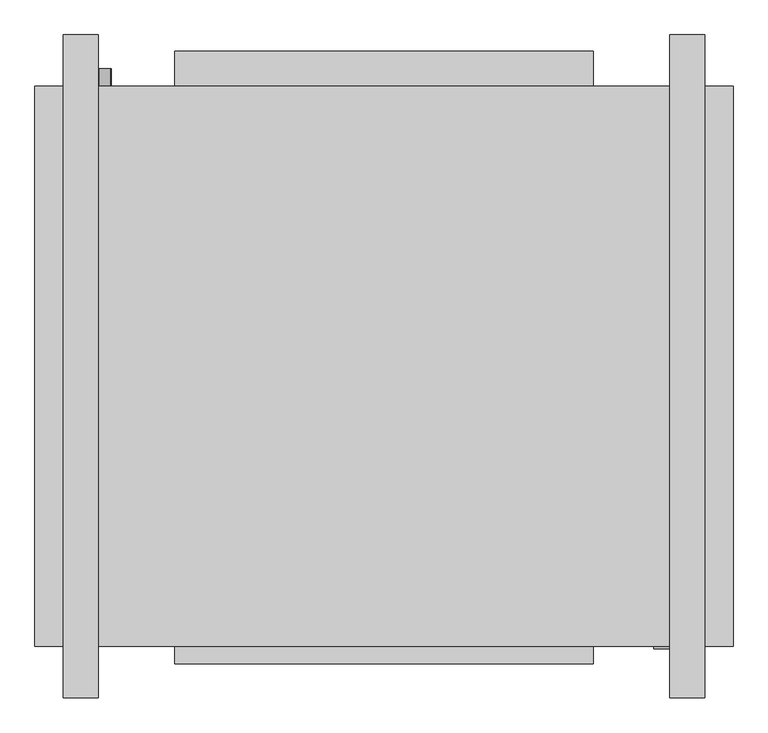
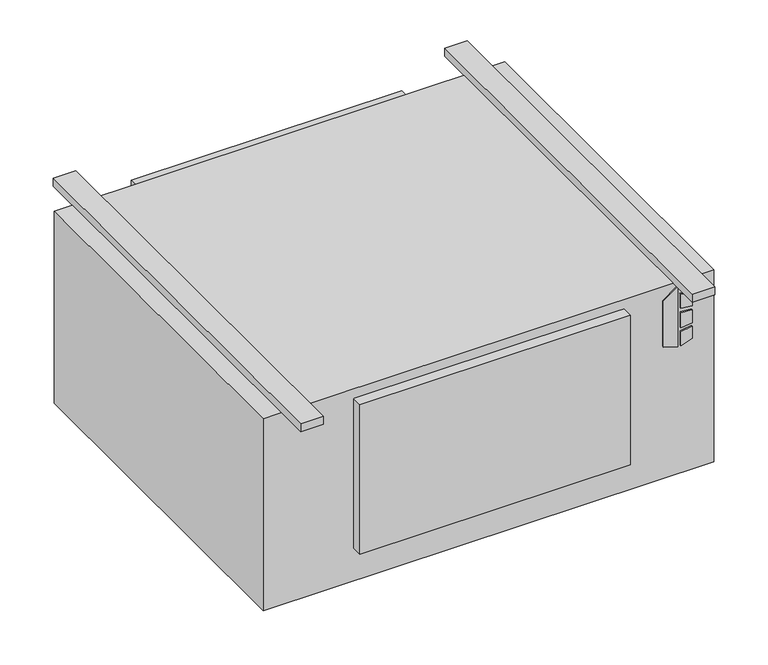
"""IFC4 building model written with IfcOpenShell, lengths in millimetres: proxy geometry, Concealed_High_Capacity_Horizontal_Cabinet_Fan_Coil_Unit_-_HXY_-_IEC_-_4-Pipe_LH_2022 : Size 10 - 277v/60Hz/1Ph - 6/2 Coil."""

import ifcopenshell
import ifcopenshell.guid

model = None  # the IFC model being written
_history = None  # IfcOwnerHistory: only IFC2X3 demands one
_inside = {}  # id of a spatial element -> (the spatial element, [elements in it])
_under = {}  # id of a project, library or spatial element -> (it, [spatial elements below it])
_declared = {}  # id of a project -> (the project, [libraries it declares])
_typed = {}  # id of a type object -> (the type object, [elements of that type])
_made_of = {}  # id of a material, layer set ... -> (it, [elements and type objects made of it])


def new_model(schema):
    """Start an empty IFC model of exactly this schema.

    Asked for "IFC4X3", IfcOpenShell would pick the latest addendum, in which some entities
    have other attributes; the version numbers below select the first issue.
    IFC2X3 requires an IfcOwnerHistory on every rooted entity: one is made here for all.
    """
    global model, _history
    if schema == "IFC4X3":
        model = ifcopenshell.file(schema_version=(4, 3, 0, 0))
    else:
        model = ifcopenshell.file(schema=schema)
    _inside.clear()
    _under.clear()
    _declared.clear()
    _typed.clear()
    _made_of.clear()
    _history = None
    if model.schema == "IFC2X3":
        org = make("IfcOrganization", Name="unknown")
        user = make(
            "IfcPersonAndOrganization",
            ThePerson=make("IfcPerson", FamilyName="unknown"),
            TheOrganization=org,
        )
        app = make(
            "IfcApplication",
            ApplicationDeveloper=org,
            Version="unknown",
            ApplicationFullName="unknown",
            ApplicationIdentifier="unknown",
        )
        _history = make(
            "IfcOwnerHistory",
            OwningUser=user,
            OwningApplication=app,
            ChangeAction="ADDED",
            CreationDate=0,
        )
    return model


def make(cls, **values):
    """One entity of the class cls with the attributes given. An attribute that is None is left unset."""
    return model.create_entity(
        cls, **{name: value for name, value in values.items() if value is not None}
    )


def rooted(cls, **values):
    """An entity with a GlobalId (a new one), such as an element, a storey or a relation."""
    return make(cls, GlobalId=ifcopenshell.guid.new(), OwnerHistory=_history, **values)


def si_unit(unit_type, name, prefix=None):
    """IfcSIUnit, for example si_unit("LENGTHUNIT", "METRE", prefix="MILLI")."""
    return make("IfcSIUnit", UnitType=unit_type, Prefix=prefix, Name=name)


def assignment(units):
    """IfcUnitAssignment: the units of a project."""
    return None if units is None else make("IfcUnitAssignment", Units=units)


def point(xyz):
    """IfcCartesianPoint."""
    return None if xyz is None else make("IfcCartesianPoint", Coordinates=xyz)


def direction(xyz):
    """IfcDirection."""
    return None if xyz is None else make("IfcDirection", DirectionRatios=xyz)


def frame(location, z_axis=None, x_axis=None):
    """IfcAxis2Placement3D, a coordinate frame: its origin and axes. An axis left out is left unset."""
    return make(
        "IfcAxis2Placement3D",
        Location=point(location),
        Axis=direction(z_axis),
        RefDirection=direction(x_axis),
    )


def frame_2d(location, x_axis=None):
    """IfcAxis2Placement2D, a coordinate frame in the plane: its origin and x axis."""
    return make(
        "IfcAxis2Placement2D", Location=point(location), RefDirection=direction(x_axis)
    )


def origin():
    """The frame at (0, 0, 0) with its axes left unset."""
    return frame((0.0, 0.0, 0.0))


def origin_with_axes():
    """The frame at (0, 0, 0) with the z axis (0, 0, 1) and the x axis (1, 0, 0) written out."""
    return frame((0.0, 0.0, 0.0), z_axis=(0.0, 0.0, 1.0), x_axis=(1.0, 0.0, 0.0))


def place(relative_to, where):
    """IfcLocalPlacement: puts the frame where relative to a parent placement (None: the world)."""
    return make(
        "IfcLocalPlacement", PlacementRelTo=relative_to, RelativePlacement=where
    )


def context(
    kind, dimensions, precision=None, world=None, true_north=None, identifier=None
):
    """IfcGeometricRepresentationContext, for example the 3D "Model" context."""
    return make(
        "IfcGeometricRepresentationContext",
        ContextIdentifier=identifier,
        ContextType=kind,
        CoordinateSpaceDimension=dimensions,
        Precision=precision,
        WorldCoordinateSystem=world,
        TrueNorth=true_north,
    )


def project(units=None, contexts=None):
    """IfcProject with its units and contexts."""
    return rooted(
        "IfcProject",
        Name="project",
        RepresentationContexts=contexts,
        UnitsInContext=assignment(units),
    )


def spatial(cls, under=None, at=None, **own):
    """A site, building, storey or space (cls), placed at a placement, below another one or the project."""
    s = rooted(cls, ObjectPlacement=at, **own)
    if under is not None:
        _under.setdefault(under.id(), (under, []))[1].append(s)
    return s


def polyline(points):
    """IfcPolyline through the points."""
    return make("IfcPolyline", Points=[point(p) for p in points])


def circle_curve(where, radius):
    """IfcCircle in the frame where."""
    return make("IfcCircle", Position=where, Radius=radius)


def trimmed(basis, trim1, trim2, sense, master):
    """IfcTrimmedCurve: the piece of a basis curve between two trims."""
    return make(
        "IfcTrimmedCurve",
        BasisCurve=basis,
        Trim1=trim1,
        Trim2=trim2,
        SenseAgreement=sense,
        MasterRepresentation=master,
    )


def segment(curve, same_sense, transition):
    """IfcCompositeCurveSegment."""
    return make(
        "IfcCompositeCurveSegment",
        Transition=transition,
        SameSense=same_sense,
        ParentCurve=curve,
    )


def composite_curve(segments, self_intersect=None):
    """IfcCompositeCurve: segments joined end to end."""
    return make("IfcCompositeCurve", Segments=segments, SelfIntersect=self_intersect)


def outline(outer, holes=None, kind="AREA"):
    """IfcArbitraryClosedProfileDef: a profile drawn as a closed curve; with holes, ...WithVoids."""
    if holes is None:
        return make("IfcArbitraryClosedProfileDef", ProfileType=kind, OuterCurve=outer)
    return make(
        "IfcArbitraryProfileDefWithVoids",
        ProfileType=kind,
        OuterCurve=outer,
        InnerCurves=holes,
    )


def extrude(swept, where, along, depth):
    """IfcExtrudedAreaSolid: the profile swept, set in the frame where, extruded along a direction by depth."""
    return make(
        "IfcExtrudedAreaSolid",
        SweptArea=swept,
        Position=where,
        ExtrudedDirection=direction(along),
        Depth=depth,
    )


def shape(context_of_items, identifier, shape_type, items):
    """IfcShapeRepresentation: the items that make up one representation, for example the "Body"."""
    return make(
        "IfcShapeRepresentation",
        ContextOfItems=context_of_items,
        RepresentationIdentifier=identifier,
        RepresentationType=shape_type,
        Items=items,
    )


def source(mapping_origin, context_of_items, identifier, shape_type, items):
    """IfcRepresentationMap: a shape defined once, which mapped items show again and again."""
    return make(
        "IfcRepresentationMap",
        MappingOrigin=mapping_origin,
        MappedRepresentation=shape(context_of_items, identifier, shape_type, items),
    )


def transform(
    local_origin,
    x_axis=None,
    y_axis=None,
    z_axis=None,
    scale=None,
    scale2=None,
    scale3=None,
    uniform=True,
):
    """IfcCartesianTransformationOperator3D, or its non-uniform kind. x_axis, y_axis, z_axis: its Axis1, 2, 3."""
    if uniform:
        return make(
            "IfcCartesianTransformationOperator3D",
            Axis1=direction(x_axis),
            Axis2=direction(y_axis),
            LocalOrigin=point(local_origin),
            Scale=scale,
            Axis3=direction(z_axis),
        )
    return make(
        "IfcCartesianTransformationOperator3DnonUniform",
        Axis1=direction(x_axis),
        Axis2=direction(y_axis),
        LocalOrigin=point(local_origin),
        Scale=scale,
        Axis3=direction(z_axis),
        Scale2=scale2,
        Scale3=scale3,
    )


def mapped(mapping_source, mapping_target):
    """IfcMappedItem: shows the shape of a source again, moved by a transform."""
    return make(
        "IfcMappedItem", MappingSource=mapping_source, MappingTarget=mapping_target
    )


def made_of(thing, what):
    """Note that an element or type object is made of a material, layer set ...; save() writes the relation."""
    if what is not None:
        _made_of.setdefault(what.id(), (what, []))[1].append(thing)
    return thing


def element(
    cls,
    number,
    at=None,
    inside=None,
    cuts=None,
    type_object=None,
    material=None,
    context=None,
    identifier="Body",
    shape_type=None,
    held_by="IfcProductDefinitionShape",
    body=None,
    shapes=None,
    **own,
):
    """One element of the class cls, such as IfcWall. Its Tag is "e" and its number.

    at: its placement. inside: the storey or other place that contains it. cuts: it is an
    opening in that element (IfcRelVoidsElement). A single representation is given by context,
    identifier, shape_type and body (its items); several are given by shapes. held_by: the class
    of the entity that holds the representations. save() writes the other relations.
    """
    e = rooted(cls, Tag="e%d" % number, ObjectPlacement=at, **own)
    if body is not None:
        shapes = [shape(context, identifier, shape_type, body)]
    if shapes is not None:
        e.Representation = make(held_by, Representations=shapes)
    if inside is not None:
        _inside.setdefault(inside.id(), (inside, []))[1].append(e)
    if cuts is not None:
        rooted(
            "IfcRelVoidsElement", RelatingBuildingElement=cuts, RelatedOpeningElement=e
        )
    if type_object is not None:
        _typed.setdefault(type_object.id(), (type_object, []))[1].append(e)
    return made_of(e, material)


def aggregate(whole, parts):
    """IfcRelAggregates: a whole, such as a stair, and the parts it consists of."""
    return rooted("IfcRelAggregates", RelatingObject=whole, RelatedObjects=parts)


def save(model, path):
    """Write the relations noted so far, then the file.

    IfcRelAggregates (storeys below a building ...), IfcRelContainedInSpatialStructure (elements
    in a storey), IfcRelDefinesByType, IfcRelAssociatesMaterial and IfcRelDeclares: one each for
    every whole, place, type object, material and project.
    """
    for whole, parts in _under.values():
        aggregate(whole, parts)
    for where, things in _inside.values():
        rooted(
            "IfcRelContainedInSpatialStructure",
            RelatedElements=things,
            RelatingStructure=where,
        )
    for kind, things in _typed.values():
        rooted("IfcRelDefinesByType", RelatedObjects=things, RelatingType=kind)
    for what, things in _made_of.values():
        rooted("IfcRelAssociatesMaterial", RelatedObjects=things, RelatingMaterial=what)
    for by, libraries in _declared.values():
        rooted("IfcRelDeclares", RelatingContext=by, RelatedDefinitions=libraries)
    model.write(path)


def mechanical_equipment_d20f1ccc(model_context):
    return source(origin(), model_context, "Body", "SweptSolid", [
        extrude(outline(polyline([(-142.4519297, 544.5868862), (-152.4, 576.7602728), (-10.2290756, 576.7602728), (-33.2510817, 544.5868862), (-142.4519297, 544.5868862)])), frame((0.0, -649.2875, 0.0), z_axis=(0.0, 1.0, 0.0), x_axis=(0.0, 0.0, 1.0)), (0.0, 0.0, 1.0), 3.175),
        extrude(outline(polyline([(-63.4526443, 583.5186058), (-66.6550368, 609.6), (-37.4261958, 609.6), (-29.3617807, 583.5186058), (-63.4526443, 583.5186058)])), frame((0.0, -649.2875, 0.0), z_axis=(0.0, 1.0, 0.0), x_axis=(0.0, 0.0, 1.0)), (0.0, 0.0, 1.0), 3.175),
        extrude(outline(polyline([(-115.3161712, 609.6), (-118.9816721, 583.5186058), (-152.4, 583.5186058), (-143.7657628, 609.6), (-115.3161712, 609.6)])), frame((0.0, -649.2875, 0.0), z_axis=(0.0, 1.0, 0.0), x_axis=(0.0, 0.0, 1.0)), (0.0, 0.0, 1.0), 3.175),
        extrude(outline(polyline([(-76.0010097, 609.6), (-73.7191834, 583.5186058), (-109.6567319, 583.5186058), (-106.9154669, 609.6), (-76.0010097, 609.6)])), frame((0.0, -649.2875, 0.0), z_axis=(0.0, 1.0, 0.0), x_axis=(0.0, 0.0, 1.0)), (0.0, 0.0, 1.0), 3.175),
        extrude(outline(composite_curve([segment(trimmed(circle_curve(frame_2d((-406.4, -254.0)), 9.525), [point((-406.4, -263.525))], [point((-406.4, -244.475))], False, "CARTESIAN"), True, "CONTINUOUS"), segment(trimmed(circle_curve(frame_2d((-406.4, -254.0)), 9.525), [point((-406.4, -244.475))], [point((-406.4, -263.525))], False, "CARTESIAN"), True, "CONTINUOUS")], self_intersect=False)), frame((0.0, 169.8625, 0.0), z_axis=(0.0, 1.0, 0.0), x_axis=(0.0, 0.0, 1.0)), (0.0, 0.0, 1.0), 25.4),
        extrude(outline(composite_curve([segment(trimmed(circle_curve(frame_2d((-330.2, -254.0)), 7.9375), [point((-330.2, -261.9375))], [point((-330.2, -246.0625))], False, "CARTESIAN"), True, "CONTINUOUS"), segment(trimmed(circle_curve(frame_2d((-330.2, -254.0)), 7.9375), [point((-330.2, -246.0625))], [point((-330.2, -261.9375))], False, "CARTESIAN"), True, "CONTINUOUS")], self_intersect=False)), frame((0.0, 169.8625, 0.0), z_axis=(0.0, 1.0, 0.0), x_axis=(0.0, 0.0, 1.0)), (0.0, 0.0, 1.0), 25.4),
        extrude(outline(composite_curve([segment(trimmed(circle_curve(frame_2d((-254.0, -254.0)), 7.9375), [point((-254.0, -261.9375))], [point((-254.0, -246.0625))], False, "CARTESIAN"), True, "CONTINUOUS"), segment(trimmed(circle_curve(frame_2d((-254.0, -254.0)), 7.9375), [point((-254.0, -246.0625))], [point((-254.0, -261.9375))], False, "CARTESIAN"), True, "CONTINUOUS")], self_intersect=False)), frame((0.0, 169.8625, 0.0), z_axis=(0.0, 1.0, 0.0), x_axis=(0.0, 0.0, 1.0)), (0.0, 0.0, 1.0), 25.4),
        extrude(outline(composite_curve([segment(trimmed(circle_curve(frame_2d((-177.8, -254.0)), 7.9375), [point((-177.8, -261.9375))], [point((-177.8, -246.0625))], False, "CARTESIAN"), True, "CONTINUOUS"), segment(trimmed(circle_curve(frame_2d((-177.8, -254.0)), 7.9375), [point((-177.8, -246.0625))], [point((-177.8, -261.9375))], False, "CARTESIAN"), True, "CONTINUOUS")], self_intersect=False)), frame((0.0, 169.8625, 0.0), z_axis=(0.0, 1.0, 0.0), x_axis=(0.0, 0.0, 1.0)), (0.0, 0.0, 1.0), 25.4),
        extrude(outline(composite_curve([segment(trimmed(circle_curve(frame_2d((-101.6, -254.0)), 7.9375), [point((-101.6, -261.9375))], [point((-101.6, -246.0625))], False, "CARTESIAN"), True, "CONTINUOUS"), segment(trimmed(circle_curve(frame_2d((-101.6, -254.0)), 7.9375), [point((-101.6, -246.0625))], [point((-101.6, -261.9375))], False, "CARTESIAN"), True, "CONTINUOUS")], self_intersect=False)), frame((0.0, 169.8625, 0.0), z_axis=(0.0, 1.0, 0.0), x_axis=(0.0, 0.0, 1.0)), (0.0, 0.0, 1.0), 25.4),
        extrude(outline(polyline([(660.4, 169.8625), (660.4, -646.1125), (-355.6, -646.1125), (-355.6, 169.8625), (660.4, 169.8625)])), frame((0.0, 0.0, -457.2), z_axis=(0.0, 0.0, 1.0), x_axis=(1.0, 0.0, 0.0)), (0.0, 0.0, 1.0), 457.2),
        extrude(outline(polyline([(-152.4, 220.6625), (457.2, 220.6625), (457.2, 169.8625), (-152.4, 169.8625), (-152.4, 220.6625)])), frame((0.0, 0.0, -377.825), z_axis=(0.0, 0.0, 1.0), x_axis=(1.0, 0.0, 0.0)), (0.0, 0.0, 1.0), 349.25),
        extrude(outline(polyline([(-263.525, 244.475), (-263.525, -720.725), (-314.325, -720.725), (-314.325, 244.475), (-263.525, 244.475)])), origin_with_axes(), (0.0, 0.0, 1.0), 19.05),
        extrude(outline(polyline([(619.125, 244.475), (619.125, -720.725), (568.325, -720.725), (568.325, 244.475), (619.125, 244.475)])), origin_with_axes(), (0.0, 0.0, 1.0), 19.05),
        extrude(outline(polyline([(457.2, -671.5125), (-152.4, -671.5125), (-152.4, -646.1125), (457.2, -646.1125), (457.2, -671.5125)])), frame((0.0, 0.0, -377.825), z_axis=(0.0, 0.0, 1.0), x_axis=(1.0, 0.0, 0.0)), (0.0, 0.0, 1.0), 355.6),
    ])


if __name__ == "__main__":
    model = new_model("IFC4")
    model_context = context("Model", 3, world=origin())
    ifc_project = project(units=[si_unit("LENGTHUNIT", "METRE", prefix="MILLI")], contexts=[model_context])
    site = spatial("IfcSite", under=ifc_project)
    building = spatial("IfcBuilding", under=site)
    placement = place(None, origin())
    mechanical_equipment_shape = mechanical_equipment_d20f1ccc(model_context)
    element("IfcBuildingElementProxy", 1, Name="Concealed_High_Capacity_Horizontal_Cabinet_Fan_Coil_Unit_-_HXY_-_IEC_-_4-Pipe_LH_2022 : Size 10 - 277v/60Hz/1Ph - 6/2 Coil", ObjectType="Concealed_High_Capacity_Horizontal_Cabinet_Fan_Coil_Unit_-_HXY_-_IEC_-_4-Pipe_LH_2022 : Size 10 - 277v/60Hz/1Ph - 6/2 Coil", at=placement, inside=building, context=model_context, shape_type="MappedRepresentation", body=[
        mapped(mechanical_equipment_shape, transform((0.0, 0.0, 0.0), x_axis=(1.0, 0.0, 0.0), y_axis=(0.0, 1.0, 0.0), z_axis=(0.0, 0.0, 1.0))),
    ])
    save(model, "model.ifc")
